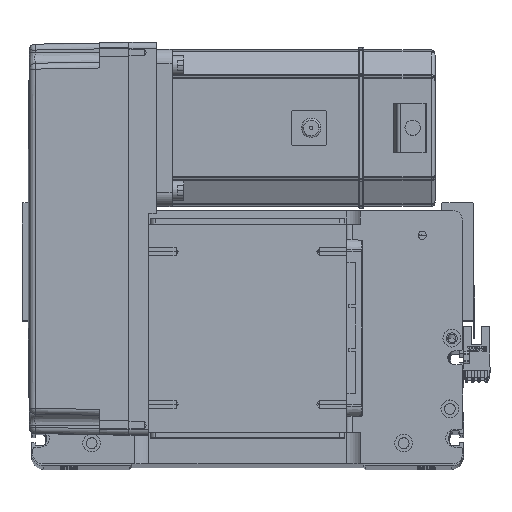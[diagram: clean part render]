
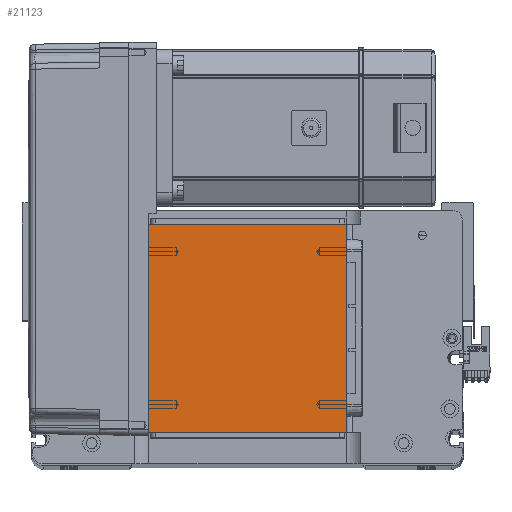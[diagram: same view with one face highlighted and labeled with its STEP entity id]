
A CAD part, top view. The second image highlights one B-rep face of the part: STEP entity #21123.
In plain terms, the highlighted planar face has unit normal (0, 0, 1).
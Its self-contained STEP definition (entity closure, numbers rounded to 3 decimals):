
#1227 = ORIENTED_EDGE ( 'NONE', *, *, #46070, .T. ) ;
#3200 = CARTESIAN_POINT ( 'NONE',  ( 50.5, 122., 115. ) ) ;
#3810 = DIRECTION ( 'NONE',  ( 0., -1., 0. ) ) ;
#4999 = LINE ( 'NONE', #42172, #46549 ) ;
#5797 = ORIENTED_EDGE ( 'NONE', *, *, #25756, .T. ) ;
#7385 = ORIENTED_EDGE ( 'NONE', *, *, #14977, .T. ) ;
#7784 = VECTOR ( 'NONE', #17307, 1000. ) ;
#8201 = CARTESIAN_POINT ( 'NONE',  ( 50.5, 16., 115. ) ) ;
#8776 = CARTESIAN_POINT ( 'NONE',  ( -50.5, 16., 115. ) ) ;
#9755 = CARTESIAN_POINT ( 'NONE',  ( -50.5, 122., 115. ) ) ;
#10886 = LINE ( 'NONE', #37371, #7784 ) ;
#11747 = VECTOR ( 'NONE', #38649, 1000. ) ;
#14657 = VERTEX_POINT ( 'NONE', #25175 ) ;
#14977 = EDGE_CURVE ( 'NONE', #14657, #37698, #48699, .T. ) ;
#17307 = DIRECTION ( 'NONE',  ( 1., 0., 0. ) ) ;
#18266 = FACE_OUTER_BOUND ( 'NONE', #29063, .T. ) ;
#19223 = ORIENTED_EDGE ( 'NONE', *, *, #28527, .T. ) ;
#19849 = VERTEX_POINT ( 'NONE', #3200 ) ;
#21123 = ADVANCED_FACE ( 'NONE', ( #18266 ), #25921, .T. ) ;
#23350 = DIRECTION ( 'NONE',  ( 0., 1., 0. ) ) ;
#24271 = CARTESIAN_POINT ( 'NONE',  ( -50.5, 122., 115. ) ) ;
#25175 = CARTESIAN_POINT ( 'NONE',  ( -50.5, 122., 115. ) ) ;
#25756 = EDGE_CURVE ( 'NONE', #47907, #19849, #4999, .T. ) ;
#25921 = PLANE ( 'NONE',  #44190 ) ;
#28527 = EDGE_CURVE ( 'NONE', #19849, #14657, #37617, .T. ) ;
#29063 = EDGE_LOOP ( 'NONE', ( #7385, #1227, #5797, #19223 ) ) ;
#29305 = CARTESIAN_POINT ( 'NONE',  ( 0., 0., 115. ) ) ;
#34887 = VECTOR ( 'NONE', #3810, 1000. ) ;
#37371 = CARTESIAN_POINT ( 'NONE',  ( -50.5, 16., 115. ) ) ;
#37617 = LINE ( 'NONE', #9755, #11747 ) ;
#37698 = VERTEX_POINT ( 'NONE', #8776 ) ;
#38649 = DIRECTION ( 'NONE',  ( -1., 0., 0. ) ) ;
#41766 = DIRECTION ( 'NONE',  ( 1., 0., 0. ) ) ;
#42172 = CARTESIAN_POINT ( 'NONE',  ( 50.5, 122., 115. ) ) ;
#44190 = AXIS2_PLACEMENT_3D ( 'NONE', #29305, #45450, #41766 ) ;
#45450 = DIRECTION ( 'NONE',  ( 0., 0., 1. ) ) ;
#46070 = EDGE_CURVE ( 'NONE', #37698, #47907, #10886, .T. ) ;
#46549 = VECTOR ( 'NONE', #23350, 1000. ) ;
#47907 = VERTEX_POINT ( 'NONE', #8201 ) ;
#48699 = LINE ( 'NONE', #24271, #34887 ) ;
